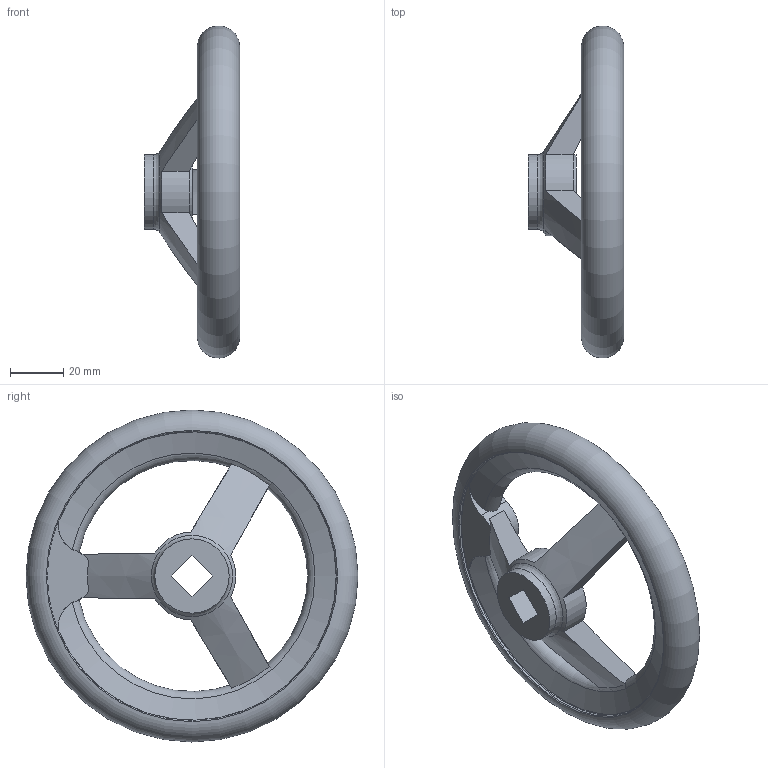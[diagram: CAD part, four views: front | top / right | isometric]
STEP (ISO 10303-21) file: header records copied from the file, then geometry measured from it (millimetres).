
FILE_DESCRIPTION( ( 'STEP AP203' ), '1' );
FILE_NAME( 'C:/Temp/Ganter_Step_05_03_2020/data/1_3/din_950/din_950_v/din_950_v_a/Handwheel DIN 950-AL-125-V11-A.stp', '2020-03-05T10:31:32', ( 'License CC BY-ND 4.0' ), ( 'CADENAS' ), ' ', 'PARTsolutions', ' ' );
FILE_SCHEMA( ( 'CONFIG_CONTROL_DESIGN' ) );
Length unit declared in the file: millimetre
Products named in the file (1): _Handwheel DIN 950-AL-125-V11-A
Bounding box: 36 x 124.99 x 124.99 mm (x, y, z)
Volume: 93355.1 mm3; surface area: 26762.1 mm2
Topology: 1 solids, 1 shells, 42 faces, 122 edges, 78 vertices
Faces by surface type: plane 14, cylinder 12, torus 12, cone 4
Full cylindrical faces by diameter (mm): 28 x2, 109 x2
Entity records: 1648 total; most frequent: CARTESIAN_POINT 604, ORIENTED_EDGE 210, DIRECTION 190, EDGE_CURVE 105, AXIS2_PLACEMENT_3D 83, VERTEX_POINT 75, EDGE_LOOP 59, FACE_OUTER_BOUND 53
